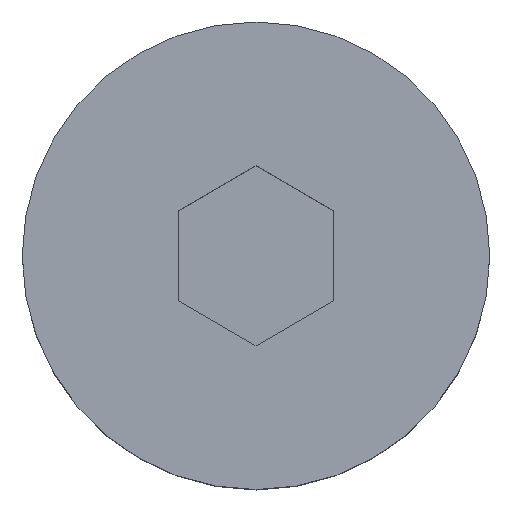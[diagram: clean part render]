
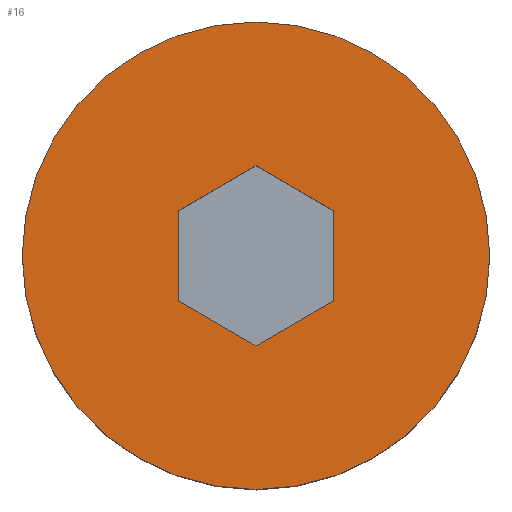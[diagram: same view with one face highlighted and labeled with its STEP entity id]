
A CAD part, top view. The second image highlights one B-rep face of the part: STEP entity #16.
In plain terms, the highlighted planar face has unit normal (0, 0, 1).
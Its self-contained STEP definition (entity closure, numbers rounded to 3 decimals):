
#12 = VECTOR ( 'NONE', #1120, 1000. ) ;
#16 = ADVANCED_FACE ( 'NONE', ( #1093, #1083 ), #171, .F. ) ;
#19 = DIRECTION ( 'NONE',  ( -0.866, -0.5, 0. ) ) ;
#26 = VECTOR ( 'NONE', #19, 1000. ) ;
#85 = VECTOR ( 'NONE', #857, 1000. ) ;
#151 = VECTOR ( 'NONE', #666, 1000. ) ;
#154 = EDGE_CURVE ( 'NONE', #704, #1125, #586, .T. ) ;
#171 = PLANE ( 'NONE',  #227 ) ;
#177 = EDGE_CURVE ( 'NONE', #1174, #245, #387, .T. ) ;
#180 = CARTESIAN_POINT ( 'NONE',  ( -3., -1.732, 9. ) ) ;
#205 = DIRECTION ( 'NONE',  ( -0.866, 0.5, 0. ) ) ;
#227 = AXIS2_PLACEMENT_3D ( 'NONE', #378, #667, #844 ) ;
#229 = ORIENTED_EDGE ( 'NONE', *, *, #336, .F. ) ;
#233 = DIRECTION ( 'NONE',  ( 0., 0., -1. ) ) ;
#245 = VERTEX_POINT ( 'NONE', #641 ) ;
#273 = VECTOR ( 'NONE', #205, 1000. ) ;
#277 = CARTESIAN_POINT ( 'NONE',  ( -3., 1.732, 9. ) ) ;
#302 = LINE ( 'NONE', #468, #772 ) ;
#304 = EDGE_CURVE ( 'NONE', #1125, #1090, #302, .T. ) ;
#316 = CARTESIAN_POINT ( 'NONE',  ( 3., 1.732, 9. ) ) ;
#333 = LINE ( 'NONE', #606, #273 ) ;
#336 = EDGE_CURVE ( 'NONE', #415, #882, #442, .T. ) ;
#356 = DIRECTION ( 'NONE',  ( -1., 0., 0. ) ) ;
#357 = EDGE_CURVE ( 'NONE', #838, #415, #555, .T. ) ;
#368 = ORIENTED_EDGE ( 'NONE', *, *, #304, .F. ) ;
#378 = CARTESIAN_POINT ( 'NONE',  ( 0., 0., 9. ) ) ;
#387 = CIRCLE ( 'NONE', #419, 9. ) ;
#410 = CARTESIAN_POINT ( 'NONE',  ( 0., 3.464, 9. ) ) ;
#415 = VERTEX_POINT ( 'NONE', #866 ) ;
#419 = AXIS2_PLACEMENT_3D ( 'NONE', #773, #233, #356 ) ;
#442 = LINE ( 'NONE', #579, #151 ) ;
#468 = CARTESIAN_POINT ( 'NONE',  ( -3., 0., 9. ) ) ;
#501 = CARTESIAN_POINT ( 'NONE',  ( -1.5, 2.598, 9. ) ) ;
#506 = CARTESIAN_POINT ( 'NONE',  ( 0., -3.464, 9. ) ) ;
#508 = AXIS2_PLACEMENT_3D ( 'NONE', #886, #670, #751 ) ;
#541 = EDGE_CURVE ( 'NONE', #245, #1174, #661, .T. ) ;
#555 = LINE ( 'NONE', #747, #12 ) ;
#579 = CARTESIAN_POINT ( 'NONE',  ( 3., 0., 9. ) ) ;
#586 = LINE ( 'NONE', #501, #26 ) ;
#592 = EDGE_LOOP ( 'NONE', ( #644, #971, #229, #675, #802, #368 ) ) ;
#606 = CARTESIAN_POINT ( 'NONE',  ( 1.5, 2.598, 9. ) ) ;
#641 = CARTESIAN_POINT ( 'NONE',  ( -9., 0., 9. ) ) ;
#644 = ORIENTED_EDGE ( 'NONE', *, *, #154, .F. ) ;
#661 = CIRCLE ( 'NONE', #508, 9. ) ;
#666 = DIRECTION ( 'NONE',  ( 0., 1., 0. ) ) ;
#667 = DIRECTION ( 'NONE',  ( 0., 0., -1. ) ) ;
#670 = DIRECTION ( 'NONE',  ( 0., 0., -1. ) ) ;
#673 = EDGE_CURVE ( 'NONE', #1090, #838, #1143, .T. ) ;
#675 = ORIENTED_EDGE ( 'NONE', *, *, #357, .F. ) ;
#704 = VERTEX_POINT ( 'NONE', #410 ) ;
#747 = CARTESIAN_POINT ( 'NONE',  ( 1.5, -2.598, 9. ) ) ;
#751 = DIRECTION ( 'NONE',  ( -1., 0., 0. ) ) ;
#758 = DIRECTION ( 'NONE',  ( 0., -1., 0. ) ) ;
#763 = CARTESIAN_POINT ( 'NONE',  ( -1.5, -2.598, 9. ) ) ;
#772 = VECTOR ( 'NONE', #758, 1000. ) ;
#773 = CARTESIAN_POINT ( 'NONE',  ( 0., 0., 9. ) ) ;
#802 = ORIENTED_EDGE ( 'NONE', *, *, #673, .F. ) ;
#828 = CARTESIAN_POINT ( 'NONE',  ( 9., 0., 9. ) ) ;
#838 = VERTEX_POINT ( 'NONE', #506 ) ;
#844 = DIRECTION ( 'NONE',  ( -1., 0., 0. ) ) ;
#857 = DIRECTION ( 'NONE',  ( 0.866, -0.5, 0. ) ) ;
#866 = CARTESIAN_POINT ( 'NONE',  ( 3., -1.732, 9. ) ) ;
#882 = VERTEX_POINT ( 'NONE', #316 ) ;
#886 = CARTESIAN_POINT ( 'NONE',  ( 0., 0., 9. ) ) ;
#896 = EDGE_CURVE ( 'NONE', #882, #704, #333, .T. ) ;
#971 = ORIENTED_EDGE ( 'NONE', *, *, #896, .F. ) ;
#983 = EDGE_LOOP ( 'NONE', ( #1074, #1032 ) ) ;
#1032 = ORIENTED_EDGE ( 'NONE', *, *, #177, .F. ) ;
#1074 = ORIENTED_EDGE ( 'NONE', *, *, #541, .F. ) ;
#1083 = FACE_BOUND ( 'NONE', #592, .T. ) ;
#1090 = VERTEX_POINT ( 'NONE', #180 ) ;
#1093 = FACE_OUTER_BOUND ( 'NONE', #983, .T. ) ;
#1120 = DIRECTION ( 'NONE',  ( 0.866, 0.5, 0. ) ) ;
#1125 = VERTEX_POINT ( 'NONE', #277 ) ;
#1143 = LINE ( 'NONE', #763, #85 ) ;
#1174 = VERTEX_POINT ( 'NONE', #828 ) ;
